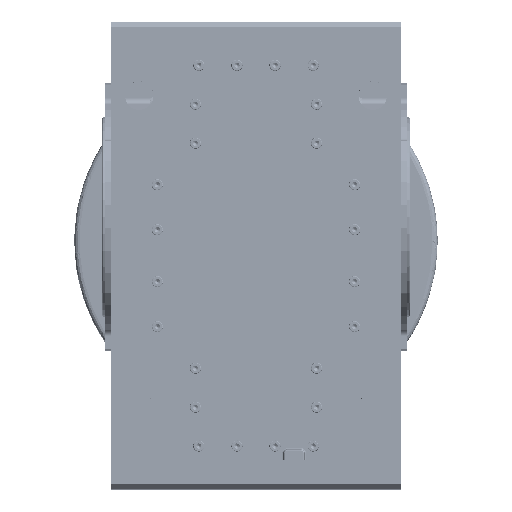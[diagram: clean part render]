
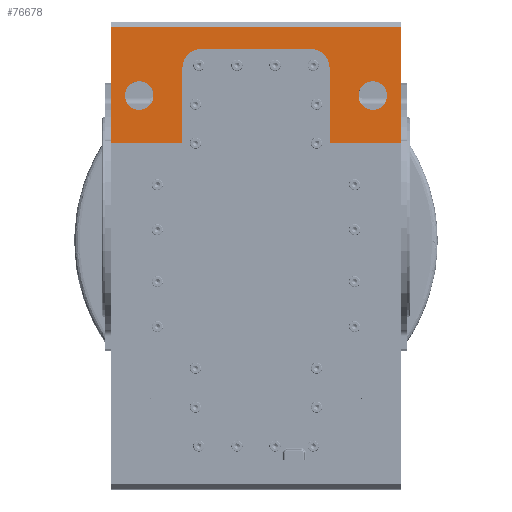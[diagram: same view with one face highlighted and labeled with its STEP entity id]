
A CAD part, top view. The second image highlights one B-rep face of the part: STEP entity #76678.
In plain terms, the highlighted planar face has unit normal (0, 0, 1).
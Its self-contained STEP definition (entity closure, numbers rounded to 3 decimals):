
#345 = VERTEX_POINT ( 'NONE', #44404 ) ;
#365 = VERTEX_POINT ( 'NONE', #42456 ) ;
#510 = VERTEX_POINT ( 'NONE', #42501 ) ;
#41111 = EDGE_CURVE ( 'NONE', #510, #365, #148524, .T. ) ;
#41130 = EDGE_CURVE ( 'NONE', #345, #166565, #148534, .T. ) ;
#42456 = CARTESIAN_POINT ( 'NONE',  ( 135., 156.5, 200. ) ) ;
#42501 = CARTESIAN_POINT ( 'NONE',  ( 135., 123.5, 200. ) ) ;
#44404 = CARTESIAN_POINT ( 'NONE',  ( -135., 123.5, 200. ) ) ;
#76678 = ADVANCED_FACE ( 'NONE', ( #261858, #261839, #261889 ), #292440, .T. ) ;
#78959 = EDGE_LOOP ( 'NONE', ( #244440, #244421 ) ) ;
#79323 = EDGE_LOOP ( 'NONE', ( #244402, #244390 ) ) ;
#79333 = EDGE_LOOP ( 'NONE', ( #244448, #244375, #244458, #244413, #244442, #244417, #244427, #244474, #244494, #244409 ) ) ;
#104870 = EDGE_CURVE ( 'NONE', #122973, #122836, #200241, .T. ) ;
#104955 = EDGE_CURVE ( 'NONE', #365, #510, #200213, .T. ) ;
#104982 = EDGE_CURVE ( 'NONE', #123093, #122973, #200221, .T. ) ;
#105054 = EDGE_CURVE ( 'NONE', #122836, #122907, #200259, .T. ) ;
#105091 = EDGE_CURVE ( 'NONE', #122907, #123039, #200219, .T. ) ;
#105138 = EDGE_CURVE ( 'NONE', #123039, #123075, #200212, .T. ) ;
#105233 = EDGE_CURVE ( 'NONE', #166565, #345, #200274, .T. ) ;
#106010 = EDGE_CURVE ( 'NONE', #123640, #123093, #268622, .T. ) ;
#107228 = EDGE_CURVE ( 'NONE', #110700, #111016, #270988, .T. ) ;
#107578 = EDGE_CURVE ( 'NONE', #123075, #111016, #266404, .T. ) ;
#107692 = EDGE_CURVE ( 'NONE', #110966, #123640, #266313, .T. ) ;
#107715 = EDGE_CURVE ( 'NONE', #110700, #110966, #266547, .T. ) ;
#110700 = VERTEX_POINT ( 'NONE', #302283 ) ;
#110966 = VERTEX_POINT ( 'NONE', #314211 ) ;
#111016 = VERTEX_POINT ( 'NONE', #314582 ) ;
#122836 = VERTEX_POINT ( 'NONE', #303658 ) ;
#122907 = VERTEX_POINT ( 'NONE', #304126 ) ;
#122973 = VERTEX_POINT ( 'NONE', #304280 ) ;
#123039 = VERTEX_POINT ( 'NONE', #304464 ) ;
#123075 = VERTEX_POINT ( 'NONE', #304779 ) ;
#123093 = VERTEX_POINT ( 'NONE', #304908 ) ;
#123640 = VERTEX_POINT ( 'NONE', #321398 ) ;
#148524 = CIRCLE ( 'NONE', #194865, 16.5 ) ;
#148534 = CIRCLE ( 'NONE', #194873, 16.5 ) ;
#162711 = DIRECTION ( 'NONE',  ( 0., -1., 0. ) ) ;
#162761 = CARTESIAN_POINT ( 'NONE',  ( 135., 140., 200. ) ) ;
#162781 = DIRECTION ( 'NONE',  ( 0., 0., -1. ) ) ;
#162828 = CARTESIAN_POINT ( 'NONE',  ( -135., 140., 200. ) ) ;
#162868 = DIRECTION ( 'NONE',  ( 0., -1., 0. ) ) ;
#162878 = DIRECTION ( 'NONE',  ( 0., 0., -1. ) ) ;
#166565 = VERTEX_POINT ( 'NONE', #340692 ) ;
#194865 = AXIS2_PLACEMENT_3D ( 'NONE', #162761, #162781, #162711 ) ;
#194873 = AXIS2_PLACEMENT_3D ( 'NONE', #162828, #162878, #162868 ) ;
#200211 = VECTOR ( 'NONE', #252955, 1000. ) ;
#200212 = LINE ( 'NONE', #252989, #200232 ) ;
#200213 = CIRCLE ( 'NONE', #248214, 16.5 ) ;
#200219 = CIRCLE ( 'NONE', #248240, 22. ) ;
#200221 = LINE ( 'NONE', #252927, #200258 ) ;
#200232 = VECTOR ( 'NONE', #253003, 1000. ) ;
#200241 = CIRCLE ( 'NONE', #248104, 22. ) ;
#200258 = VECTOR ( 'NONE', #252920, 1000. ) ;
#200259 = LINE ( 'NONE', #252945, #200211 ) ;
#200274 = CIRCLE ( 'NONE', #248550, 16.5 ) ;
#244375 = ORIENTED_EDGE ( 'NONE', *, *, #107715, .T. ) ;
#244390 = ORIENTED_EDGE ( 'NONE', *, *, #105233, .T. ) ;
#244402 = ORIENTED_EDGE ( 'NONE', *, *, #41130, .T. ) ;
#244409 = ORIENTED_EDGE ( 'NONE', *, *, #107578, .T. ) ;
#244413 = ORIENTED_EDGE ( 'NONE', *, *, #106010, .T. ) ;
#244417 = ORIENTED_EDGE ( 'NONE', *, *, #104870, .T. ) ;
#244421 = ORIENTED_EDGE ( 'NONE', *, *, #104955, .T. ) ;
#244427 = ORIENTED_EDGE ( 'NONE', *, *, #105054, .T. ) ;
#244440 = ORIENTED_EDGE ( 'NONE', *, *, #41111, .T. ) ;
#244442 = ORIENTED_EDGE ( 'NONE', *, *, #104982, .T. ) ;
#244448 = ORIENTED_EDGE ( 'NONE', *, *, #107228, .F. ) ;
#244458 = ORIENTED_EDGE ( 'NONE', *, *, #107692, .T. ) ;
#244474 = ORIENTED_EDGE ( 'NONE', *, *, #105091, .T. ) ;
#244494 = ORIENTED_EDGE ( 'NONE', *, *, #105138, .T. ) ;
#248104 = AXIS2_PLACEMENT_3D ( 'NONE', #252892, #252842, #252887 ) ;
#248214 = AXIS2_PLACEMENT_3D ( 'NONE', #252938, #252930, #252914 ) ;
#248240 = AXIS2_PLACEMENT_3D ( 'NONE', #252964, #252950, #252957 ) ;
#248550 = AXIS2_PLACEMENT_3D ( 'NONE', #253058, #253031, #253046 ) ;
#250761 = AXIS2_PLACEMENT_3D ( 'NONE', #292445, #292316, #292329 ) ;
#252842 = DIRECTION ( 'NONE',  ( 0., 0., -1. ) ) ;
#252887 = DIRECTION ( 'NONE',  ( 0., -1., 0. ) ) ;
#252892 = CARTESIAN_POINT ( 'NONE',  ( -63., 172., 200. ) ) ;
#252914 = DIRECTION ( 'NONE',  ( 0., -1., 0. ) ) ;
#252920 = DIRECTION ( 'NONE',  ( 0., 1., 0. ) ) ;
#252927 = CARTESIAN_POINT ( 'NONE',  ( -85., 225., 200. ) ) ;
#252930 = DIRECTION ( 'NONE',  ( 0., 0., -1. ) ) ;
#252938 = CARTESIAN_POINT ( 'NONE',  ( 135., 140., 200. ) ) ;
#252945 = CARTESIAN_POINT ( 'NONE',  ( -167.5, 194., 200. ) ) ;
#252950 = DIRECTION ( 'NONE',  ( 0., 0., -1. ) ) ;
#252955 = DIRECTION ( 'NONE',  ( 1., 0., 0. ) ) ;
#252957 = DIRECTION ( 'NONE',  ( 0., -1., 0. ) ) ;
#252964 = CARTESIAN_POINT ( 'NONE',  ( 63., 172., 200. ) ) ;
#252989 = CARTESIAN_POINT ( 'NONE',  ( 85., 225., 200. ) ) ;
#253003 = DIRECTION ( 'NONE',  ( 0., -1., 0. ) ) ;
#253031 = DIRECTION ( 'NONE',  ( 0., 0., -1. ) ) ;
#253046 = DIRECTION ( 'NONE',  ( 0., -1., 0. ) ) ;
#253058 = CARTESIAN_POINT ( 'NONE',  ( -135., 140., 200. ) ) ;
#261839 = FACE_BOUND ( 'NONE', #79323, .T. ) ;
#261858 = FACE_BOUND ( 'NONE', #78959, .T. ) ;
#261889 = FACE_OUTER_BOUND ( 'NONE', #79333, .T. ) ;
#263475 = CARTESIAN_POINT ( 'NONE',  ( -167.5, 85., 200. ) ) ;
#263480 = DIRECTION ( 'NONE',  ( 1., 0., 0. ) ) ;
#266313 = LINE ( 'NONE', #284162, #266443 ) ;
#266404 = LINE ( 'NONE', #283122, #266474 ) ;
#266443 = VECTOR ( 'NONE', #284025, 1000. ) ;
#266474 = VECTOR ( 'NONE', #283132, 1000. ) ;
#266547 = LINE ( 'NONE', #283978, #266562 ) ;
#266562 = VECTOR ( 'NONE', #284155, 1000. ) ;
#268622 = LINE ( 'NONE', #263475, #268677 ) ;
#268677 = VECTOR ( 'NONE', #263480, 1000. ) ;
#270988 = LINE ( 'NONE', #285628, #270994 ) ;
#270994 = VECTOR ( 'NONE', #285522, 1000. ) ;
#283122 = CARTESIAN_POINT ( 'NONE',  ( 97.5, 85., 200. ) ) ;
#283132 = DIRECTION ( 'NONE',  ( 1., 0., 0. ) ) ;
#283978 = CARTESIAN_POINT ( 'NONE',  ( -167.5, 219., 200. ) ) ;
#284025 = DIRECTION ( 'NONE',  ( 0., -1., 0. ) ) ;
#284155 = DIRECTION ( 'NONE',  ( -1., 0., 0. ) ) ;
#284162 = CARTESIAN_POINT ( 'NONE',  ( -167.5, 225., 200. ) ) ;
#285522 = DIRECTION ( 'NONE',  ( 0., -1., 0. ) ) ;
#285628 = CARTESIAN_POINT ( 'NONE',  ( 167.5, 221., 200. ) ) ;
#292316 = DIRECTION ( 'NONE',  ( 0., 0., 1. ) ) ;
#292329 = DIRECTION ( 'NONE',  ( 0., -1., 0. ) ) ;
#292440 = PLANE ( 'NONE',  #250761 ) ;
#292445 = CARTESIAN_POINT ( 'NONE',  ( -167.5, 225., 200. ) ) ;
#302283 = CARTESIAN_POINT ( 'NONE',  ( 167.5, 219., 200. ) ) ;
#303658 = CARTESIAN_POINT ( 'NONE',  ( -63., 194., 200. ) ) ;
#304126 = CARTESIAN_POINT ( 'NONE',  ( 63., 194., 200. ) ) ;
#304280 = CARTESIAN_POINT ( 'NONE',  ( -85., 172., 200. ) ) ;
#304464 = CARTESIAN_POINT ( 'NONE',  ( 85., 172., 200. ) ) ;
#304779 = CARTESIAN_POINT ( 'NONE',  ( 85., 85., 200. ) ) ;
#304908 = CARTESIAN_POINT ( 'NONE',  ( -85., 85., 200. ) ) ;
#314211 = CARTESIAN_POINT ( 'NONE',  ( -167.5, 219., 200. ) ) ;
#314582 = CARTESIAN_POINT ( 'NONE',  ( 167.5, 85., 200. ) ) ;
#321398 = CARTESIAN_POINT ( 'NONE',  ( -167.5, 85., 200. ) ) ;
#340692 = CARTESIAN_POINT ( 'NONE',  ( -135., 156.5, 200. ) ) ;
